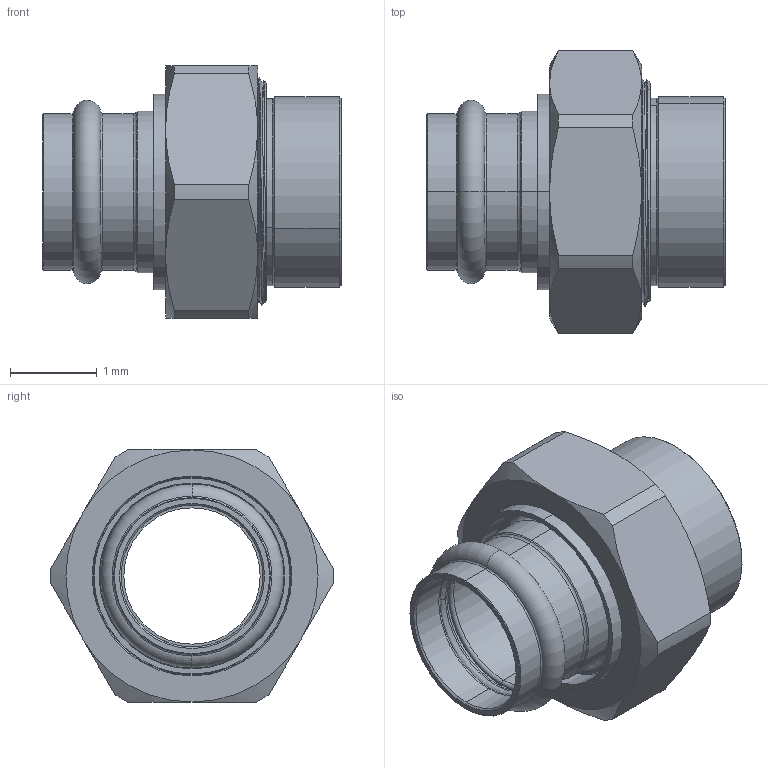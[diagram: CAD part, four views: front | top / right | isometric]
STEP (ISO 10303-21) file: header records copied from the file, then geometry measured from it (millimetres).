
FILE_DESCRIPTION(('Open CASCADE Model'),'2;1');
FILE_NAME('Open CASCADE Shape Model','2022-06-28T09:19:27',('Author'),( 'Open CASCADE'),'Open CASCADE STEP processor 7.3','Open CASCADE 7.3' ,'Unknown');
FILE_SCHEMA(('AUTOMOTIVE_DESIGN { 1 0 10303 214 1 1 1 1 }'));
Length unit declared in the file: millimetre
Products named in the file (7): Open CASCADE STEP translator 7.3 1; Open CASCADE STEP translator 7.3 1.1; Open CASCADE STEP translator 7.3 1.2; Open CASCADE STEP translator 7.3 1.3; Open CASCADE STEP translator 7.3 1.4; Open CASCADE STEP translator 7.3 1.5; Open CASCADE STEP translator 7.3 1.6
Assembly tree (6 placements, depth 2):
  Open CASCADE STEP translator 7.3 1
    Open CASCADE STEP translator 7.3 1.1
    Open CASCADE STEP translator 7.3 1.2
    Open CASCADE STEP translator 7.3 1.3
    Open CASCADE STEP translator 7.3 1.4
    Open CASCADE STEP translator 7.3 1.5
    Open CASCADE STEP translator 7.3 1.6
Bounding box: 3.45 x 3.27 x 2.92 mm (x, y, z)
Volume: 7.4 mm3; surface area: 109.5 mm2
Topology: 6 solids, 6 shells, 214 faces, 509 edges, 316 vertices
Faces by surface type: cylinder 84, cone 70, plane 29, torus 16, bspline 15
Entity records: 43502 total; most frequent: CARTESIAN_POINT 35106, ORIENTED_EDGE 1018, PCURVE 1018, DEFINITIONAL_REPRESENTATION 1018, B_SPLINE_CURVE_WITH_KNOTS 1012, DIRECTION 995, EDGE_CURVE 509, SURFACE_CURVE 509
